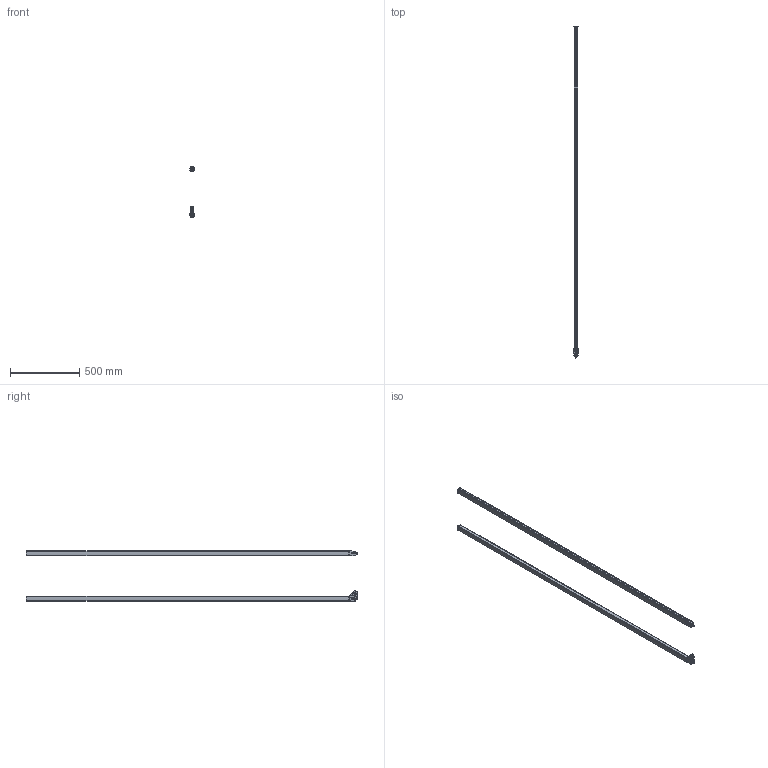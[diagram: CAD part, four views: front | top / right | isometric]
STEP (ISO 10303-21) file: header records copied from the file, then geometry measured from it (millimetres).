
FILE_DESCRIPTION(/* description */ (''),/* implementation_level */ '2;1');
FILE_NAME(/* name */ '3DCAD_CML700i_PN_2320.stp',/* time_stamp */ '2017-09-19T13:14:07+02:00',/* author */ ('CC2'),/* organization */ ('Leuze electronic'),/* preprocessor_version */ 'ST-DEVELOPER v15',/* originating_system */ 'SIEMENS PLM Software NX 8.5',/* authorisation */ '');
FILE_SCHEMA (('AUTOMOTIVE_DESIGN { 1 0 10303 214 3 1 1 1 }'));
Length unit declared in the file: millimetre
Products named in the file (8): 002502_00.0; 002491_00.0; 009185_00.0; 002486_00.0; 005341_00.0; 005339_00.0; 009183_00.0_MODEL; 19-102661_00.0
Assembly tree (8 placements, depth 3):
  19-102661_00.0
    009183_00.0_MODEL
      005341_00.0
      002486_00.0
      009185_00.0
    005339_00.0
      005341_00.0
      002491_00.0
      002502_00.0
Bounding box: 28.99 x 2392.8 x 361.11 mm (x, y, z)
Volume: 4215351.4 mm3; surface area: 739256.9 mm2
Topology: 7 solids, 7 shells, 2495 faces, 6548 edges, 4164 vertices
Faces by surface type: plane 973, cylinder 625, bspline 419, cone 176, extrusion 133, torus 120, sphere 29, revolution 20
Full cylindrical faces by diameter (mm): 0.4 x1, 0.75 x1, 0.85 x1, 1 x18, 2 x2, 2.6 x26, 3.2 x2, 3.5 x4, 4 x2, 6.7 x4, 7 x6, 8.6 x2, 9.3 x2, 10.8 x1, 11 x2, 12 x2, 18 x2
Entity records: 108410 total; most frequent: CARTESIAN_POINT 51571, ORIENTED_EDGE 12056, DIRECTION 10184, EDGE_CURVE 6028, VERTEX_POINT 3928, AXIS2_PLACEMENT_3D 3657, VECTOR 2850, EDGE_LOOP 2752
